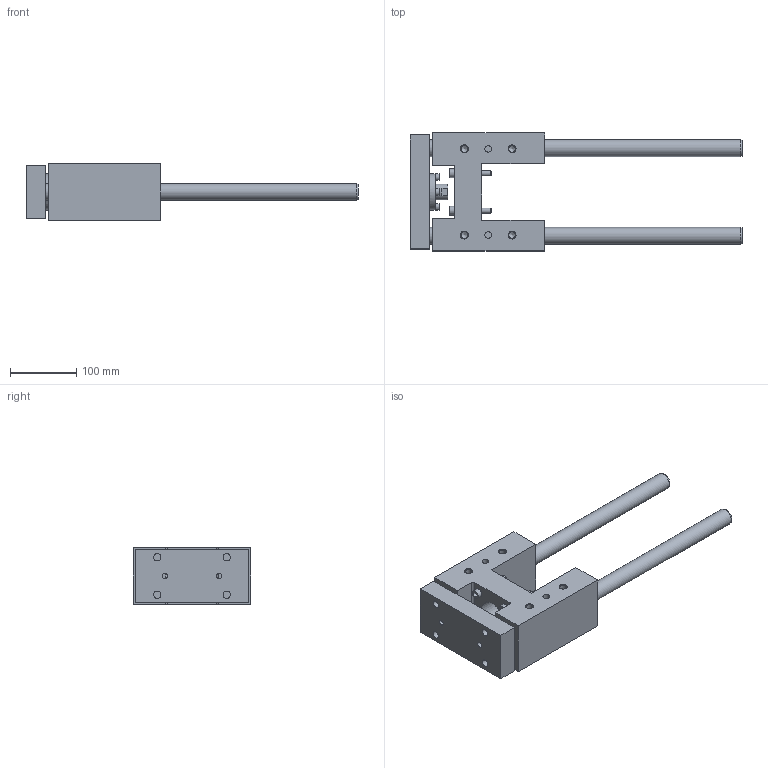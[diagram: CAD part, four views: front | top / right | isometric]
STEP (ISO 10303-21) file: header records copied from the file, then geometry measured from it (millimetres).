
FILE_DESCRIPTION( ( 'STEP AP214' ), '1' );
FILE_NAME( 'U:/Etudes/Top Solid/BIBLIO 3D AVM/TOP/PNEUMATIQUE/GUIDAGES/Type 32 (en H)/R_Renforcée/327R5_30.step', '2005-05-27T09:06:34', ( ' ' ), ( ' ' ), 'XStep 1.0', ' ', ' ' );
FILE_SCHEMA( ( 'automotive_design' ) );
Length unit declared in the file: metre
Products named in the file (2): 1; 2
Bounding box: 501 x 178 x 85 mm (x, y, z)
Volume: 2260037.6 mm3; surface area: 294035.7 mm2
Topology: 2 solids, 7 shells, 209 faces, 484 edges, 321 vertices
Faces by surface type: plane 118, cylinder 70, cone 21
Full cylindrical faces by diameter (mm): 6 x8, 6.5 x4, 8 x10, 8.376 x4, 9 x4, 10 x6, 10.106 x8, 11 x4, 13 x4, 14.376 x2, 18 x4, 24 x1, 25 x4, 26 x1, 34 x1, 37 x1, 45 x1, 55 x1
Entity records: 7089 total; most frequent: CARTESIAN_POINT 1103, DIRECTION 900, ORIENTED_EDGE 696, EDGE_LOOP 358, AXIS2_PLACEMENT_3D 349, EDGE_CURVE 348, VERTEX_POINT 280, FACE_OUTER_BOUND 277
